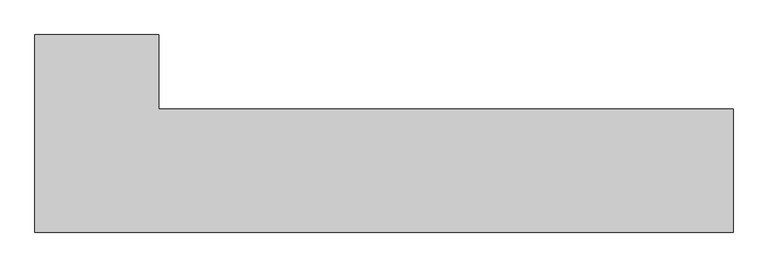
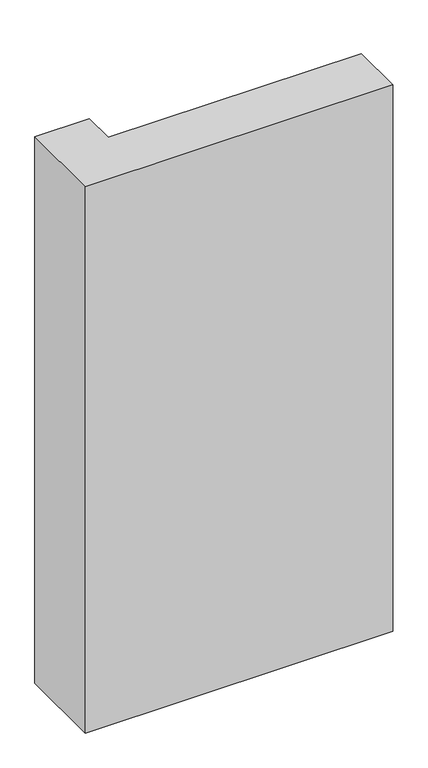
"""IFC4 building model written with IfcOpenShell, lengths in millimetres: column geometry, Columna Estructural Ele : ECO_Ele 40x141x25."""

import ifcopenshell
import ifcopenshell.guid

model = None  # the IFC model being written
_history = None  # IfcOwnerHistory: only IFC2X3 demands one
_inside = {}  # id of a spatial element -> (the spatial element, [elements in it])
_under = {}  # id of a project, library or spatial element -> (it, [spatial elements below it])
_declared = {}  # id of a project -> (the project, [libraries it declares])
_typed = {}  # id of a type object -> (the type object, [elements of that type])
_made_of = {}  # id of a material, layer set ... -> (it, [elements and type objects made of it])


def new_model(schema):
    """Start an empty IFC model of exactly this schema.

    Asked for "IFC4X3", IfcOpenShell would pick the latest addendum, in which some entities
    have other attributes; the version numbers below select the first issue.
    IFC2X3 requires an IfcOwnerHistory on every rooted entity: one is made here for all.
    """
    global model, _history
    if schema == "IFC4X3":
        model = ifcopenshell.file(schema_version=(4, 3, 0, 0))
    else:
        model = ifcopenshell.file(schema=schema)
    _inside.clear()
    _under.clear()
    _declared.clear()
    _typed.clear()
    _made_of.clear()
    _history = None
    if model.schema == "IFC2X3":
        org = make("IfcOrganization", Name="unknown")
        user = make(
            "IfcPersonAndOrganization",
            ThePerson=make("IfcPerson", FamilyName="unknown"),
            TheOrganization=org,
        )
        app = make(
            "IfcApplication",
            ApplicationDeveloper=org,
            Version="unknown",
            ApplicationFullName="unknown",
            ApplicationIdentifier="unknown",
        )
        _history = make(
            "IfcOwnerHistory",
            OwningUser=user,
            OwningApplication=app,
            ChangeAction="ADDED",
            CreationDate=0,
        )
    return model


def make(cls, **values):
    """One entity of the class cls with the attributes given. An attribute that is None is left unset."""
    return model.create_entity(
        cls, **{name: value for name, value in values.items() if value is not None}
    )


def rooted(cls, **values):
    """An entity with a GlobalId (a new one), such as an element, a storey or a relation."""
    return make(cls, GlobalId=ifcopenshell.guid.new(), OwnerHistory=_history, **values)


def si_unit(unit_type, name, prefix=None):
    """IfcSIUnit, for example si_unit("LENGTHUNIT", "METRE", prefix="MILLI")."""
    return make("IfcSIUnit", UnitType=unit_type, Prefix=prefix, Name=name)


def assignment(units):
    """IfcUnitAssignment: the units of a project."""
    return None if units is None else make("IfcUnitAssignment", Units=units)


def point(xyz):
    """IfcCartesianPoint."""
    return None if xyz is None else make("IfcCartesianPoint", Coordinates=xyz)


def direction(xyz):
    """IfcDirection."""
    return None if xyz is None else make("IfcDirection", DirectionRatios=xyz)


def frame(location, z_axis=None, x_axis=None):
    """IfcAxis2Placement3D, a coordinate frame: its origin and axes. An axis left out is left unset."""
    return make(
        "IfcAxis2Placement3D",
        Location=point(location),
        Axis=direction(z_axis),
        RefDirection=direction(x_axis),
    )


def origin():
    """The frame at (0, 0, 0) with its axes left unset."""
    return frame((0.0, 0.0, 0.0))


def place(relative_to, where):
    """IfcLocalPlacement: puts the frame where relative to a parent placement (None: the world)."""
    return make(
        "IfcLocalPlacement", PlacementRelTo=relative_to, RelativePlacement=where
    )


def context(
    kind, dimensions, precision=None, world=None, true_north=None, identifier=None
):
    """IfcGeometricRepresentationContext, for example the 3D "Model" context."""
    return make(
        "IfcGeometricRepresentationContext",
        ContextIdentifier=identifier,
        ContextType=kind,
        CoordinateSpaceDimension=dimensions,
        Precision=precision,
        WorldCoordinateSystem=world,
        TrueNorth=true_north,
    )


def project(units=None, contexts=None):
    """IfcProject with its units and contexts."""
    return rooted(
        "IfcProject",
        Name="project",
        RepresentationContexts=contexts,
        UnitsInContext=assignment(units),
    )


def spatial(cls, under=None, at=None, **own):
    """A site, building, storey or space (cls), placed at a placement, below another one or the project."""
    s = rooted(cls, ObjectPlacement=at, **own)
    if under is not None:
        _under.setdefault(under.id(), (under, []))[1].append(s)
    return s


def polyline(points):
    """IfcPolyline through the points."""
    return make("IfcPolyline", Points=[point(p) for p in points])


def outline(outer, holes=None, kind="AREA"):
    """IfcArbitraryClosedProfileDef: a profile drawn as a closed curve; with holes, ...WithVoids."""
    if holes is None:
        return make("IfcArbitraryClosedProfileDef", ProfileType=kind, OuterCurve=outer)
    return make(
        "IfcArbitraryProfileDefWithVoids",
        ProfileType=kind,
        OuterCurve=outer,
        InnerCurves=holes,
    )


def extrude(swept, where, along, depth):
    """IfcExtrudedAreaSolid: the profile swept, set in the frame where, extruded along a direction by depth."""
    return make(
        "IfcExtrudedAreaSolid",
        SweptArea=swept,
        Position=where,
        ExtrudedDirection=direction(along),
        Depth=depth,
    )


def shape(context_of_items, identifier, shape_type, items):
    """IfcShapeRepresentation: the items that make up one representation, for example the "Body"."""
    return make(
        "IfcShapeRepresentation",
        ContextOfItems=context_of_items,
        RepresentationIdentifier=identifier,
        RepresentationType=shape_type,
        Items=items,
    )


def source(mapping_origin, context_of_items, identifier, shape_type, items):
    """IfcRepresentationMap: a shape defined once, which mapped items show again and again."""
    return make(
        "IfcRepresentationMap",
        MappingOrigin=mapping_origin,
        MappedRepresentation=shape(context_of_items, identifier, shape_type, items),
    )


def transform(
    local_origin,
    x_axis=None,
    y_axis=None,
    z_axis=None,
    scale=None,
    scale2=None,
    scale3=None,
    uniform=True,
):
    """IfcCartesianTransformationOperator3D, or its non-uniform kind. x_axis, y_axis, z_axis: its Axis1, 2, 3."""
    if uniform:
        return make(
            "IfcCartesianTransformationOperator3D",
            Axis1=direction(x_axis),
            Axis2=direction(y_axis),
            LocalOrigin=point(local_origin),
            Scale=scale,
            Axis3=direction(z_axis),
        )
    return make(
        "IfcCartesianTransformationOperator3DnonUniform",
        Axis1=direction(x_axis),
        Axis2=direction(y_axis),
        LocalOrigin=point(local_origin),
        Scale=scale,
        Axis3=direction(z_axis),
        Scale2=scale2,
        Scale3=scale3,
    )


def mapped(mapping_source, mapping_target):
    """IfcMappedItem: shows the shape of a source again, moved by a transform."""
    return make(
        "IfcMappedItem", MappingSource=mapping_source, MappingTarget=mapping_target
    )


def made_of(thing, what):
    """Note that an element or type object is made of a material, layer set ...; save() writes the relation."""
    if what is not None:
        _made_of.setdefault(what.id(), (what, []))[1].append(thing)
    return thing


def element(
    cls,
    number,
    at=None,
    inside=None,
    cuts=None,
    type_object=None,
    material=None,
    context=None,
    identifier="Body",
    shape_type=None,
    held_by="IfcProductDefinitionShape",
    body=None,
    shapes=None,
    **own,
):
    """One element of the class cls, such as IfcWall. Its Tag is "e" and its number.

    at: its placement. inside: the storey or other place that contains it. cuts: it is an
    opening in that element (IfcRelVoidsElement). A single representation is given by context,
    identifier, shape_type and body (its items); several are given by shapes. held_by: the class
    of the entity that holds the representations. save() writes the other relations.
    """
    e = rooted(cls, Tag="e%d" % number, ObjectPlacement=at, **own)
    if body is not None:
        shapes = [shape(context, identifier, shape_type, body)]
    if shapes is not None:
        e.Representation = make(held_by, Representations=shapes)
    if inside is not None:
        _inside.setdefault(inside.id(), (inside, []))[1].append(e)
    if cuts is not None:
        rooted(
            "IfcRelVoidsElement", RelatingBuildingElement=cuts, RelatedOpeningElement=e
        )
    if type_object is not None:
        _typed.setdefault(type_object.id(), (type_object, []))[1].append(e)
    return made_of(e, material)


def aggregate(whole, parts):
    """IfcRelAggregates: a whole, such as a stair, and the parts it consists of."""
    return rooted("IfcRelAggregates", RelatingObject=whole, RelatedObjects=parts)


def save(model, path):
    """Write the relations noted so far, then the file.

    IfcRelAggregates (storeys below a building ...), IfcRelContainedInSpatialStructure (elements
    in a storey), IfcRelDefinesByType, IfcRelAssociatesMaterial and IfcRelDeclares: one each for
    every whole, place, type object, material and project.
    """
    for whole, parts in _under.values():
        aggregate(whole, parts)
    for where, things in _inside.values():
        rooted(
            "IfcRelContainedInSpatialStructure",
            RelatedElements=things,
            RelatingStructure=where,
        )
    for kind, things in _typed.values():
        rooted("IfcRelDefinesByType", RelatedObjects=things, RelatingType=kind)
    for what, things in _made_of.values():
        rooted("IfcRelAssociatesMaterial", RelatedObjects=things, RelatingMaterial=what)
    for by, libraries in _declared.values():
        rooted("IfcRelDeclares", RelatingContext=by, RelatedDefinitions=libraries)
    model.write(path)


def column_ebed28f4(model_context):
    return source(origin(), model_context, "Body", "SweptSolid", [
        extrude(outline(polyline([(125.0, 275.0), (125.0, 125.0), (1285.0, 125.0), (1285.0, -125.0), (-125.0, -125.0), (-125.0, 275.0), (125.0, 275.0)])), frame((0.0, 0.0, 5400.0), z_axis=(0.0, 0.0, 1.0), x_axis=(1.0, 0.0, 0.0)), (0.0, 0.0, 1.0), 2650.0),
    ])


if __name__ == "__main__":
    model = new_model("IFC4")
    model_context = context("Model", 3, world=origin())
    ifc_project = project(units=[si_unit("LENGTHUNIT", "METRE", prefix="MILLI")], contexts=[model_context])
    site = spatial("IfcSite", under=ifc_project)
    building = spatial("IfcBuilding", under=site)
    placement = place(None, origin())
    column_shape = column_ebed28f4(model_context)
    element("IfcColumn", 1, ObjectType="Columna Estructural Ele : ECO_Ele 40x141x25", at=placement, inside=building, context=model_context, shape_type="MappedRepresentation", body=[
        mapped(column_shape, transform((0.0, 0.0, 0.0), x_axis=(1.0, 0.0, 0.0), y_axis=(0.0, 1.0, 0.0), z_axis=(0.0, 0.0, 1.0))),
    ])
    save(model, "model.ifc")
